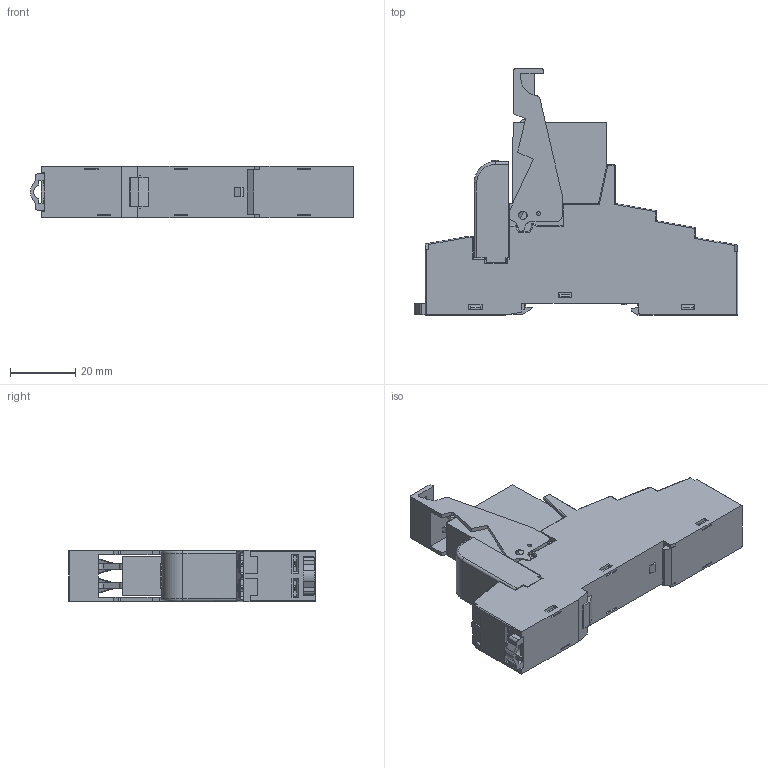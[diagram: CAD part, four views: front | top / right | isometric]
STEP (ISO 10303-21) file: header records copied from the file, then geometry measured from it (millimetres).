
FILE_DESCRIPTION(/* description */ ('Unknown'),/* implementation_level */ '2;1');
FILE_NAME(/* name */ '48P5',/* time_stamp */ '2016-02-15T11:10:14+01:00',/* author */ ('Unknown'),/* organization */ ('Unknown'),/* preprocessor_version */ 'ST-DEVELOPER v16',/* originating_system */ 'DEX',/* authorisation */ $);
FILE_SCHEMA (('AUTOMOTIVE_DESIGN {1 0 10303 214 3 1 1}'));
Products named in the file (7): 48P5; 95P5; Assieme 95.x5; Assieme 95.x5.asm0; 4052; 095913; 9902 modulino con led - CS
Assembly tree (6 placements, depth 4):
  48P5
    95P5
      Assieme 95.x5
        Assieme 95.x5.asm0
    4052
    095913
    9902 modulino con led - CS
Bounding box: 98.9 x 75.26 x 15.8 mm (x, y, z)
Volume: 1794 mm3; surface area: 27718.9 mm2
Topology: 1 solids, 2689 shells, 2956 faces, 15490 edges, 15210 vertices
Faces by surface type: plane 2209, cylinder 564, torus 95, cone 70, sphere 16, bspline 2
Full cylindrical faces by diameter (mm): 1.2 x4, 1.3 x2, 1.8 x1, 2.2 x8, 2.5 x2, 2.6 x2
Entity records: 176080 total; most frequent: CARTESIAN_POINT 35418, DIRECTION 23660, ORIENTED_EDGE 16148, EDGE_CURVE 15454, VERTEX_POINT 15202, LINE 12736, VECTOR 12736, AXIS2_PLACEMENT_3D 5462
